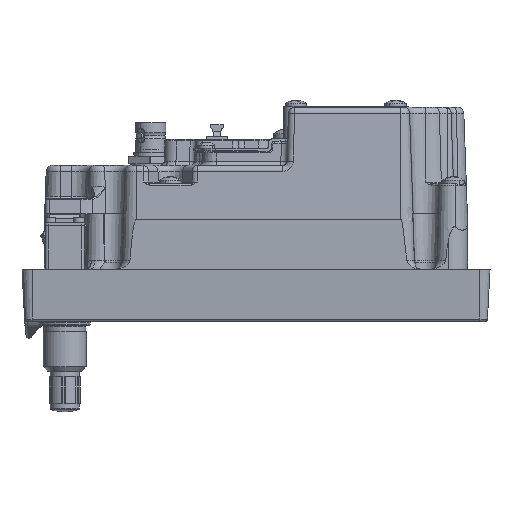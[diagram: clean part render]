
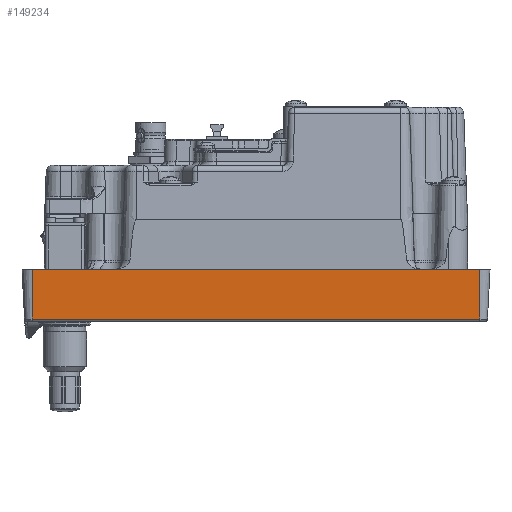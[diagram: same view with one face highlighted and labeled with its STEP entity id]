
A CAD part, front view. The second image highlights one B-rep face of the part: STEP entity #149234.
In plain terms, the highlighted planar face has unit normal (0, -0.999, -0.052).
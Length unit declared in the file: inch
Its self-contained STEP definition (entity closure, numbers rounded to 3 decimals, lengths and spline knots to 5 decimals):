
#2056 = VECTOR ( 'NONE', #139845, 39.37008 ) ;
#6947 = FACE_OUTER_BOUND ( 'NONE', #179871, .T. ) ;
#7296 = ORIENTED_EDGE ( 'NONE', *, *, #121083, .T. ) ;
#11122 = ORIENTED_EDGE ( 'NONE', *, *, #176346, .T. ) ;
#13343 = CARTESIAN_POINT ( 'NONE',  ( -2.83399, -3.99862, -0.00984 ) ) ;
#20442 = VERTEX_POINT ( 'NONE', #88321 ) ;
#24682 = DIRECTION ( 'NONE',  ( 1., 0., 0. ) ) ;
#38825 = CARTESIAN_POINT ( 'NONE',  ( 2.83399, -3.99862, -0.00984 ) ) ;
#58906 = VECTOR ( 'NONE', #62880, 39.37008 ) ;
#62880 = DIRECTION ( 'NONE',  ( 0., 0.052, -0.999 ) ) ;
#68219 = VERTEX_POINT ( 'NONE', #13343 ) ;
#68388 = CARTESIAN_POINT ( 'NONE',  ( 0., -3.96602, -0.63198 ) ) ;
#69832 = CARTESIAN_POINT ( 'NONE',  ( 0., -3.99862, -0.00984 ) ) ;
#72305 = DIRECTION ( 'NONE',  ( 0., -0.052, 0.999 ) ) ;
#75329 = ORIENTED_EDGE ( 'NONE', *, *, #125822, .T. ) ;
#77931 = DIRECTION ( 'NONE',  ( 0., 0.052, -0.999 ) ) ;
#84374 = LINE ( 'NONE', #69832, #2056 ) ;
#85080 = LINE ( 'NONE', #157795, #179772 ) ;
#88321 = CARTESIAN_POINT ( 'NONE',  ( 2.83399, -3.96602, -0.63198 ) ) ;
#104312 = PLANE ( 'NONE',  #115742 ) ;
#115742 = AXIS2_PLACEMENT_3D ( 'NONE', #117935, #147072, #77931 ) ;
#117935 = CARTESIAN_POINT ( 'NONE',  ( 0., -3.99862, -0.00984 ) ) ;
#119271 = LINE ( 'NONE', #159340, #58906 ) ;
#121083 = EDGE_CURVE ( 'NONE', #20442, #172824, #85080, .T. ) ;
#125693 = CARTESIAN_POINT ( 'NONE',  ( -2.83399, -3.96602, -0.63198 ) ) ;
#125822 = EDGE_CURVE ( 'NONE', #68219, #127419, #119271, .T. ) ;
#127419 = VERTEX_POINT ( 'NONE', #125693 ) ;
#129289 = ORIENTED_EDGE ( 'NONE', *, *, #133369, .T. ) ;
#133369 = EDGE_CURVE ( 'NONE', #127419, #20442, #137511, .T. ) ;
#137511 = LINE ( 'NONE', #68388, #138253 ) ;
#138253 = VECTOR ( 'NONE', #24682, 39.37008 ) ;
#139845 = DIRECTION ( 'NONE',  ( -1., 0., 0. ) ) ;
#147072 = DIRECTION ( 'NONE',  ( 0., -0.999, -0.052 ) ) ;
#149234 = ADVANCED_FACE ( 'NONE', ( #6947 ), #104312, .T. ) ;
#157795 = CARTESIAN_POINT ( 'NONE',  ( 2.83399, -3.99862, -0.00984 ) ) ;
#159340 = CARTESIAN_POINT ( 'NONE',  ( -2.83399, -3.99862, -0.00984 ) ) ;
#172824 = VERTEX_POINT ( 'NONE', #38825 ) ;
#176346 = EDGE_CURVE ( 'NONE', #172824, #68219, #84374, .T. ) ;
#179772 = VECTOR ( 'NONE', #72305, 39.37008 ) ;
#179871 = EDGE_LOOP ( 'NONE', ( #75329, #129289, #7296, #11122 ) ) ;
